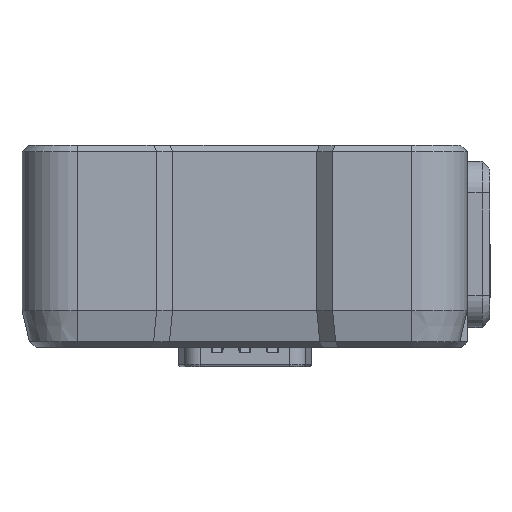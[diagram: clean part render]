
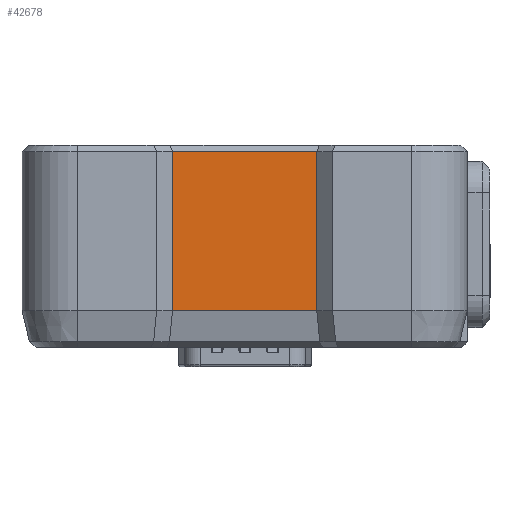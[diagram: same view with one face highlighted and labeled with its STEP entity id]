
A CAD part, left-side view. The second image highlights one B-rep face of the part: STEP entity #42678.
In plain terms, the highlighted planar face has unit normal (-1, 0, 0).
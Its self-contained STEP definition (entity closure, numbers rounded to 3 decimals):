
#4708=FACE_OUTER_BOUND('',#7378,.T.);
#7378=EDGE_LOOP('',(#29305,#29306,#29307,#29308));
#10324=LINE('',#60479,#14028);
#10425=LINE('',#61222,#14129);
#10426=LINE('',#61225,#14130);
#10427=LINE('',#61226,#14131);
#14028=VECTOR('',#49645,10.);
#14129=VECTOR('',#49808,10.);
#14130=VECTOR('',#49811,10.);
#14131=VECTOR('',#49812,10.);
#17724=VERTEX_POINT('',#60474);
#17725=VERTEX_POINT('',#60478);
#17891=VERTEX_POINT('',#61220);
#17892=VERTEX_POINT('',#61224);
#22069=EDGE_CURVE('',#17724,#17725,#10324,.T.);
#22263=EDGE_CURVE('',#17891,#17724,#10425,.T.);
#22264=EDGE_CURVE('',#17892,#17891,#10426,.T.);
#22265=EDGE_CURVE('',#17892,#17725,#10427,.T.);
#29305=ORIENTED_EDGE('',*,*,#22264,.F.);
#29306=ORIENTED_EDGE('',*,*,#22265,.T.);
#29307=ORIENTED_EDGE('',*,*,#22069,.F.);
#29308=ORIENTED_EDGE('',*,*,#22263,.F.);
#41318=PLANE('',#45559);
#42678=ADVANCED_FACE('',(#4708),#41318,.T.);
#45559=AXIS2_PLACEMENT_3D('',#61223,#49809,#49810);
#49645=DIRECTION('',(0.,-1.,0.));
#49808=DIRECTION('',(0.,0.,1.));
#49809=DIRECTION('center_axis',(-1.,0.,0.));
#49810=DIRECTION('ref_axis',(0.,-1.,0.));
#49811=DIRECTION('',(0.,1.,0.));
#49812=DIRECTION('',(0.,0.,1.));
#60474=CARTESIAN_POINT('',(-74.49,39.269,21.286));
#60478=CARTESIAN_POINT('',(-74.49,21.069,21.286));
#60479=CARTESIAN_POINT('',(-74.49,34.719,21.286));
#61220=CARTESIAN_POINT('',(-74.49,39.269,1.186));
#61222=CARTESIAN_POINT('',(-74.49,39.269,20.086));
#61223=CARTESIAN_POINT('Origin',(-74.49,39.269,20.086));
#61224=CARTESIAN_POINT('',(-74.49,21.069,1.186));
#61225=CARTESIAN_POINT('',(-74.49,34.719,1.186));
#61226=CARTESIAN_POINT('',(-74.49,21.069,20.086));
